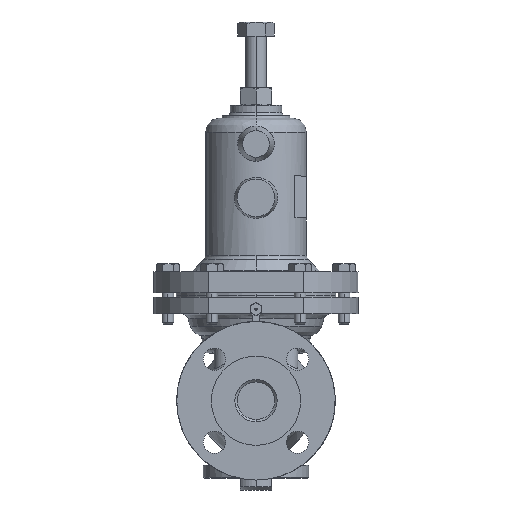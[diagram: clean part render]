
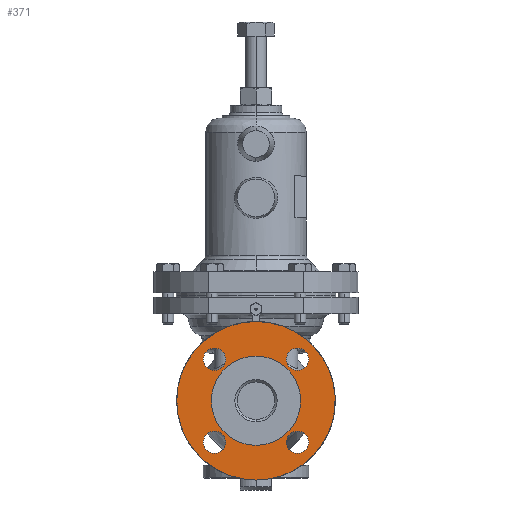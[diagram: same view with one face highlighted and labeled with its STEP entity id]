
A CAD part, left-side view. The second image highlights one B-rep face of the part: STEP entity #371.
In plain terms, the highlighted planar face has unit normal (-1, 0, 0).
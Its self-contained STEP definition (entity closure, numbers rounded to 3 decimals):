
#371=ADVANCED_FACE('',(#2881,#2882,#2883,#2884,#2885,#2886),#2880,.F.);
#2880=PLANE('',#8893);
#2881=FACE_OUTER_BOUND('',#8894,.T.);
#2882=FACE_BOUND('',#8895,.T.);
#2883=FACE_BOUND('',#8896,.T.);
#2884=FACE_BOUND('',#8897,.T.);
#2885=FACE_BOUND('',#8898,.T.);
#2886=FACE_BOUND('',#8899,.T.);
#8890=CARTESIAN_POINT('',(-95.5,-128.763,144.692));
#8891=DIRECTION('',(1.,0.,0.));
#8892=DIRECTION('',(0.,0.,-1.));
#8893=AXIS2_PLACEMENT_3D('',#8890,#8891,#8892);
#8894=EDGE_LOOP('',(#12037,#12038,#12039,#12040));
#8895=EDGE_LOOP('',(#12041,#12042));
#8896=EDGE_LOOP('',(#12043,#12044));
#8897=EDGE_LOOP('',(#12045,#12046));
#8898=EDGE_LOOP('',(#12047,#12048));
#8899=EDGE_LOOP('',(#12049,#12050));
#12037=ORIENTED_EDGE('',*,*,#13979,.T.);
#12038=ORIENTED_EDGE('',*,*,#13980,.T.);
#12039=ORIENTED_EDGE('',*,*,#13981,.T.);
#12040=ORIENTED_EDGE('',*,*,#13982,.T.);
#12041=ORIENTED_EDGE('',*,*,#13983,.F.);
#12042=ORIENTED_EDGE('',*,*,#13984,.F.);
#12043=ORIENTED_EDGE('',*,*,#13985,.F.);
#12044=ORIENTED_EDGE('',*,*,#13986,.F.);
#12045=ORIENTED_EDGE('',*,*,#13987,.F.);
#12046=ORIENTED_EDGE('',*,*,#13988,.F.);
#12047=ORIENTED_EDGE('',*,*,#13989,.F.);
#12048=ORIENTED_EDGE('',*,*,#13990,.F.);
#12049=ORIENTED_EDGE('',*,*,#13991,.F.);
#12050=ORIENTED_EDGE('',*,*,#13992,.F.);
#13979=EDGE_CURVE('',#18876,#18877,#18878,.T.);
#13980=EDGE_CURVE('',#18877,#18884,#18885,.T.);
#13981=EDGE_CURVE('',#18884,#18891,#18892,.T.);
#13982=EDGE_CURVE('',#18891,#18876,#18898,.T.);
#13983=EDGE_CURVE('',#18904,#18905,#18906,.T.);
#13984=EDGE_CURVE('',#18905,#18904,#18912,.T.);
#13985=EDGE_CURVE('',#18918,#18919,#18920,.T.);
#13986=EDGE_CURVE('',#18919,#18918,#18926,.T.);
#13987=EDGE_CURVE('',#18932,#18933,#18934,.T.);
#13988=EDGE_CURVE('',#18933,#18932,#18940,.T.);
#13989=EDGE_CURVE('',#18946,#18947,#18948,.T.);
#13990=EDGE_CURVE('',#18947,#18946,#18954,.T.);
#13991=EDGE_CURVE('',#18960,#18961,#18962,.T.);
#13992=EDGE_CURVE('',#18961,#18960,#18968,.T.);
#18876=VERTEX_POINT('',#27976);
#18877=VERTEX_POINT('',#27977);
#18878=CIRCLE('',#27981,67.5);
#18884=VERTEX_POINT('',#27982);
#18885=CIRCLE('',#27986,67.5);
#18891=VERTEX_POINT('',#27987);
#18892=CIRCLE('',#27991,67.5);
#18898=CIRCLE('',#27995,67.5);
#18904=VERTEX_POINT('',#27996);
#18905=VERTEX_POINT('',#27997);
#18906=CIRCLE('',#28001,9.5);
#18912=CIRCLE('',#28005,9.5);
#18918=VERTEX_POINT('',#28006);
#18919=VERTEX_POINT('',#28007);
#18920=CIRCLE('',#28011,38.);
#18926=CIRCLE('',#28015,38.);
#18932=VERTEX_POINT('',#28016);
#18933=VERTEX_POINT('',#28017);
#18934=CIRCLE('',#28021,9.5);
#18940=CIRCLE('',#28025,9.5);
#18946=VERTEX_POINT('',#28026);
#18947=VERTEX_POINT('',#28027);
#18948=CIRCLE('',#28031,9.5);
#18954=CIRCLE('',#28035,9.5);
#18960=VERTEX_POINT('',#28036);
#18961=VERTEX_POINT('',#28037);
#18962=CIRCLE('',#28041,9.5);
#18968=CIRCLE('',#28045,9.5);
#27976=CARTESIAN_POINT('',(-95.5,-57.204,35.833));
#27977=CARTESIAN_POINT('',(-95.5,0.,67.5));
#27978=CARTESIAN_POINT('',(-95.5,0.,0.));
#27979=DIRECTION('',(-1.,0.,0.));
#27980=DIRECTION('',(0.,-0.847,0.531));
#27981=AXIS2_PLACEMENT_3D('',#27978,#27979,#27980);
#27982=CARTESIAN_POINT('',(-95.5,0.,-67.5));
#27983=CARTESIAN_POINT('',(-95.5,0.,0.));
#27984=DIRECTION('',(-1.,0.,0.));
#27985=DIRECTION('',(0.,-0.847,0.531));
#27986=AXIS2_PLACEMENT_3D('',#27983,#27984,#27985);
#27987=CARTESIAN_POINT('',(-95.5,-57.41,35.501));
#27988=CARTESIAN_POINT('',(-95.5,0.,0.));
#27989=DIRECTION('',(-1.,0.,0.));
#27990=DIRECTION('',(0.,-0.847,0.531));
#27991=AXIS2_PLACEMENT_3D('',#27988,#27989,#27990);
#27992=CARTESIAN_POINT('',(-95.5,0.,0.));
#27993=DIRECTION('',(-1.,0.,0.));
#27994=DIRECTION('',(0.,0.,-1.));
#27995=AXIS2_PLACEMENT_3D('',#27992,#27993,#27994);
#27996=CARTESIAN_POINT('',(-95.5,35.355,44.855));
#27997=CARTESIAN_POINT('',(-95.5,35.355,25.855));
#27998=CARTESIAN_POINT('',(-95.5,35.355,35.355));
#27999=DIRECTION('',(-1.,0.,0.));
#28000=DIRECTION('',(0.,0.,-1.));
#28001=AXIS2_PLACEMENT_3D('',#27998,#27999,#28000);
#28002=CARTESIAN_POINT('',(-95.5,35.355,35.355));
#28003=DIRECTION('',(-1.,0.,0.));
#28004=DIRECTION('',(0.,0.,-1.));
#28005=AXIS2_PLACEMENT_3D('',#28002,#28003,#28004);
#28006=CARTESIAN_POINT('',(-95.5,0.,-38.));
#28007=CARTESIAN_POINT('',(-95.5,0.,38.));
#28008=CARTESIAN_POINT('',(-95.5,0.,0.));
#28009=DIRECTION('',(-1.,0.,0.));
#28010=DIRECTION('',(0.,0.,1.));
#28011=AXIS2_PLACEMENT_3D('',#28008,#28009,#28010);
#28012=CARTESIAN_POINT('',(-95.5,0.,0.));
#28013=DIRECTION('',(-1.,0.,0.));
#28014=DIRECTION('',(0.,0.,1.));
#28015=AXIS2_PLACEMENT_3D('',#28012,#28013,#28014);
#28016=CARTESIAN_POINT('',(-95.5,35.355,-25.855));
#28017=CARTESIAN_POINT('',(-95.5,35.355,-44.855));
#28018=CARTESIAN_POINT('',(-95.5,35.355,-35.355));
#28019=DIRECTION('',(-1.,0.,0.));
#28020=DIRECTION('',(0.,0.,-1.));
#28021=AXIS2_PLACEMENT_3D('',#28018,#28019,#28020);
#28022=CARTESIAN_POINT('',(-95.5,35.355,-35.355));
#28023=DIRECTION('',(-1.,0.,0.));
#28024=DIRECTION('',(0.,0.,-1.));
#28025=AXIS2_PLACEMENT_3D('',#28022,#28023,#28024);
#28026=CARTESIAN_POINT('',(-95.5,-35.355,44.855));
#28027=CARTESIAN_POINT('',(-95.5,-35.355,25.855));
#28028=CARTESIAN_POINT('',(-95.5,-35.355,35.355));
#28029=DIRECTION('',(-1.,0.,0.));
#28030=DIRECTION('',(0.,0.,-1.));
#28031=AXIS2_PLACEMENT_3D('',#28028,#28029,#28030);
#28032=CARTESIAN_POINT('',(-95.5,-35.355,35.355));
#28033=DIRECTION('',(-1.,0.,0.));
#28034=DIRECTION('',(0.,0.,-1.));
#28035=AXIS2_PLACEMENT_3D('',#28032,#28033,#28034);
#28036=CARTESIAN_POINT('',(-95.5,-35.355,-25.855));
#28037=CARTESIAN_POINT('',(-95.5,-35.355,-44.855));
#28038=CARTESIAN_POINT('',(-95.5,-35.355,-35.355));
#28039=DIRECTION('',(-1.,0.,0.));
#28040=DIRECTION('',(0.,0.,-1.));
#28041=AXIS2_PLACEMENT_3D('',#28038,#28039,#28040);
#28042=CARTESIAN_POINT('',(-95.5,-35.355,-35.355));
#28043=DIRECTION('',(-1.,0.,0.));
#28044=DIRECTION('',(0.,0.,-1.));
#28045=AXIS2_PLACEMENT_3D('',#28042,#28043,#28044);
